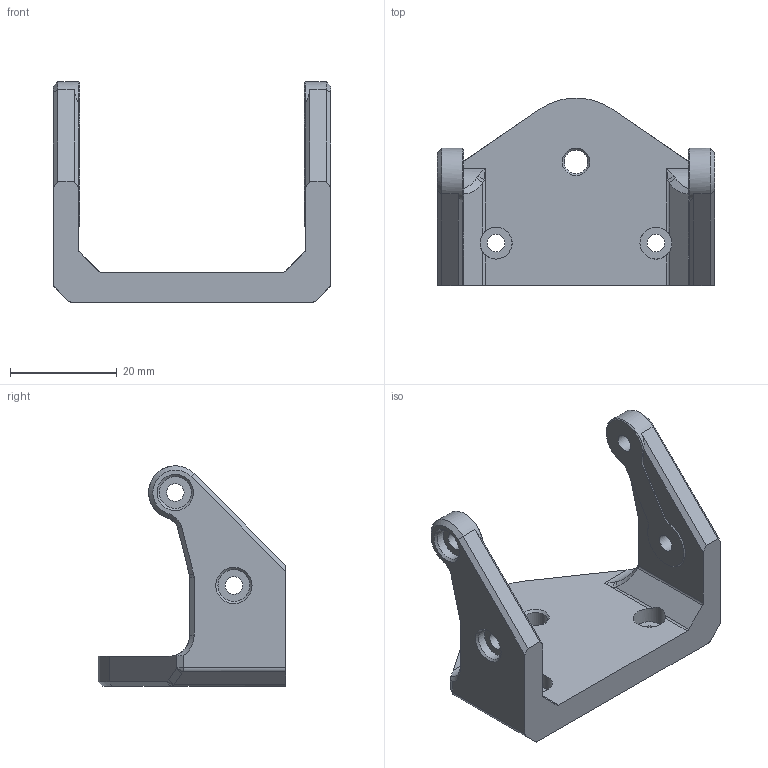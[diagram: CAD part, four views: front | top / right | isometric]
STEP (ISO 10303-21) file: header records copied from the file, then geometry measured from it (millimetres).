
FILE_DESCRIPTION(/* description */ (''),/* implementation_level */ '2;1');
FILE_NAME(/* name */ 'HMG7-Bondtech-LGX-Front-Mount.step',/* time_stamp */ '2022-11-01T22:02:05-07:00',/* author */ (''),/* organization */ (''),/* preprocessor_version */ 'ST-DEVELOPER v19.2',/* originating_system */ 'Autodesk Translation Framework v11.17.0.187',/* authorisation */ '');
FILE_SCHEMA (('AUTOMOTIVE_DESIGN { 1 0 10303 214 3 1 1 }'));
Length unit declared in the file: millimetre
Products named in the file (5): GEN_7_1.5; LGX; LGX_Mount_Plate; LGX_Front_Stepper; LGX_Front_Stepper_Mount_Plate
Assembly tree (4 placements, depth 4):
  GEN_7_1.5
    LGX
      LGX_Mount_Plate
      LGX_Front_Stepper
        LGX_Front_Stepper_Mount_Plate
Bounding box: 52 x 35.19 x 41.35 mm (x, y, z)
Volume: 13024.8 mm3; surface area: 6758.5 mm2
Topology: 1 solids, 1 shells, 152 faces, 386 edges, 238 vertices
Faces by surface type: plane 57, cone 37, cylinder 36, bspline 22
Full cylindrical faces by diameter (mm): 3.3 x6, 4.4 x1, 6 x6
Entity records: 5023 total; most frequent: CARTESIAN_POINT 1343, ORIENTED_EDGE 768, DIRECTION 717, EDGE_CURVE 384, AXIS2_PLACEMENT_3D 256, VERTEX_POINT 238, LINE 205, VECTOR 205
